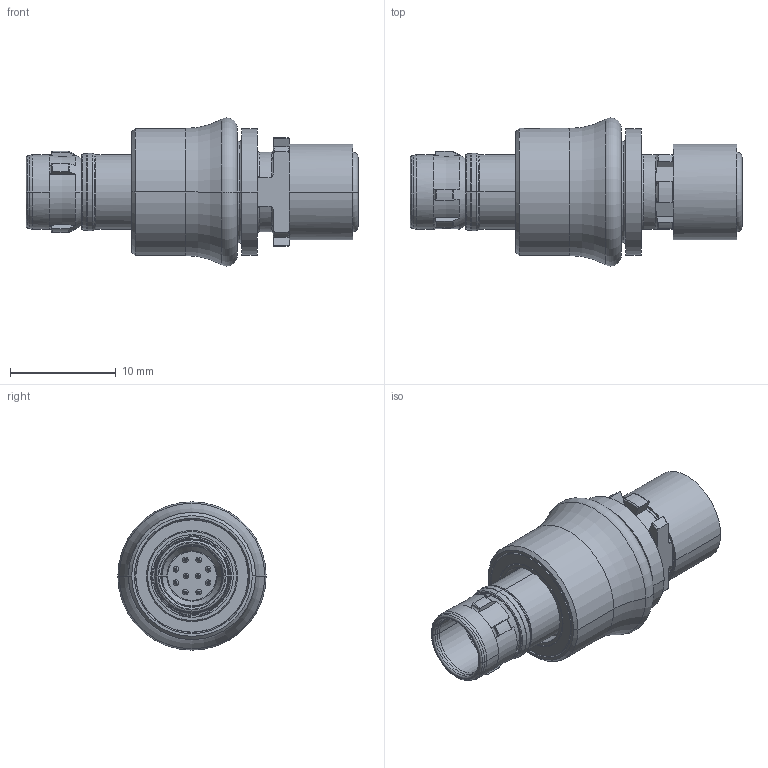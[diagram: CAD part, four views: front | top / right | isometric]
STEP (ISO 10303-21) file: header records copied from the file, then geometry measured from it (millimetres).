
FILE_DESCRIPTION((''),'2;1');
FILE_NAME('00050371-A','2020-10-27T09:37:33',('EUnterhaslberger'),(''),'CREO PARAMETRIC BY PTC INC, 2018300','CREO PARAMETRIC BY PTC INC, 2018300','');
FILE_SCHEMA(('AP242_MANAGED_MODEL_BASED_3D_ENGINEERING_MIM_LF { 1 0 10303 442 1 1 4 }'));
Length unit declared in the file: millimetre
Products named in the file (1): 00050371-A
Bounding box: 31.35 x 14 x 14 mm (x, y, z)
Volume: 1649.4 mm3; surface area: 3717.2 mm2
Topology: 1 solids, 1 shells, 771 faces, 2047 edges, 1288 vertices
Faces by surface type: cylinder 278, plane 201, torus 140, cone 112, bspline 20, sphere 20
Entity records: 31242 total; most frequent: CARTESIAN_POINT 6429, DIRECTION 4255, ORIENTED_EDGE 4014, EDGE_CURVE 2007, AXIS2_PLACEMENT_3D 1795, VERTEX_POINT 1288, CIRCLE 1044, EDGE_LOOP 849
